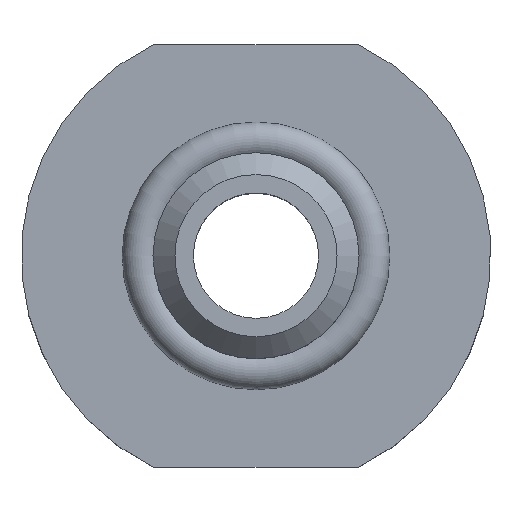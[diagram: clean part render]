
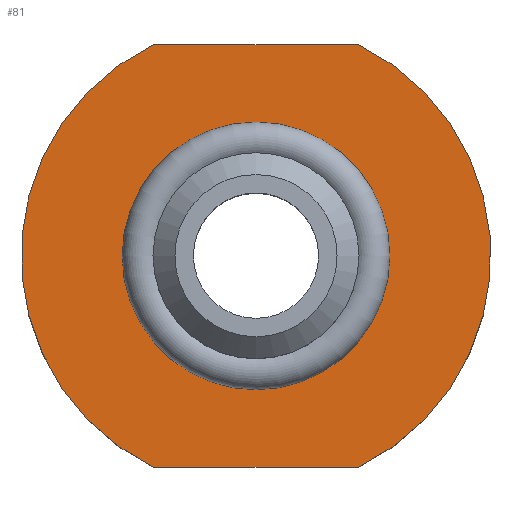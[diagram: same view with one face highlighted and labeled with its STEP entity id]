
A CAD part, top view. The second image highlights one B-rep face of the part: STEP entity #81.
In plain terms, the highlighted planar face has unit normal (0, 0, 1).
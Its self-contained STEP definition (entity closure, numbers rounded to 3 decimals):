
#81=ADVANCED_FACE('',(#162,#163),#164,.T.);
#162=FACE_BOUND('',#252,.T.);
#163=FACE_OUTER_BOUND('',#253,.T.);
#164=PLANE('',#254);
#252=EDGE_LOOP('',(#343));
#253=EDGE_LOOP('',(#344,#345,#346,#347));
#254=AXIS2_PLACEMENT_3D('',#348,#349,#350);
#343=ORIENTED_EDGE('',*,*,#462,.F.);
#344=ORIENTED_EDGE('',*,*,#458,.T.);
#345=ORIENTED_EDGE('',*,*,#463,.T.);
#346=ORIENTED_EDGE('',*,*,#464,.T.);
#347=ORIENTED_EDGE('',*,*,#465,.T.);
#348=CARTESIAN_POINT('',(0.0,0.0,14.0));
#349=DIRECTION('',(0.0,0.0,1.0));
#350=DIRECTION('',(1.0,0.0,0.0));
#458=EDGE_CURVE('',#514,#511,#515,.T.);
#462=EDGE_CURVE('',#520,#520,#521,.T.);
#463=EDGE_CURVE('',#511,#522,#523,.T.);
#464=EDGE_CURVE('',#522,#524,#525,.T.);
#465=EDGE_CURVE('',#524,#514,#526,.T.);
#511=VERTEX_POINT('',#581);
#514=VERTEX_POINT('',#585);
#515=CIRCLE('',#586,15.0);
#520=VERTEX_POINT('',#592);
#521=CIRCLE('',#593,8.55);
#522=VERTEX_POINT('',#594);
#523=LINE('',#595,#596);
#524=VERTEX_POINT('',#597);
#525=CIRCLE('',#598,15.0);
#526=LINE('',#599,#600);
#581=CARTESIAN_POINT('',(6.538,13.5,14.0));
#585=CARTESIAN_POINT('',(6.538,-13.5,14.0));
#586=AXIS2_PLACEMENT_3D('',#662,#663,#664);
#592=CARTESIAN_POINT('',(8.55,0.,14.0));
#593=AXIS2_PLACEMENT_3D('',#669,#670,#671);
#594=CARTESIAN_POINT('',(-6.538,13.5,14.0));
#595=CARTESIAN_POINT('',(0.0,13.5,14.0));
#596=VECTOR('',#672,1.0);
#597=CARTESIAN_POINT('',(-6.538,-13.5,14.0));
#598=AXIS2_PLACEMENT_3D('',#673,#674,#675);
#599=CARTESIAN_POINT('',(0.0,-13.5,14.0));
#600=VECTOR('',#676,1.0);
#662=CARTESIAN_POINT('',(0.0,0.0,14.0));
#663=DIRECTION('',(0.0,0.0,1.0));
#664=DIRECTION('',(1.0,0.0,0.0));
#669=CARTESIAN_POINT('',(0.0,0.,14.0));
#670=DIRECTION('',(0.0,0.0,1.0));
#671=DIRECTION('',(1.0,0.0,0.0));
#672=DIRECTION('',(-1.0,0.0,0.0));
#673=CARTESIAN_POINT('',(0.0,0.0,14.0));
#674=DIRECTION('',(0.0,0.0,1.0));
#675=DIRECTION('',(1.0,0.0,0.0));
#676=DIRECTION('',(1.0,0.0,0.0));
